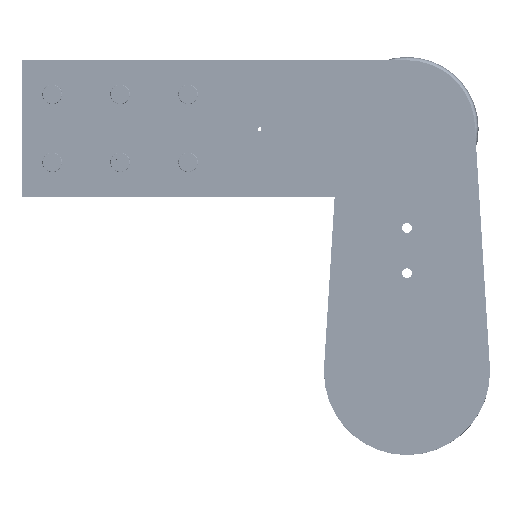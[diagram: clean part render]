
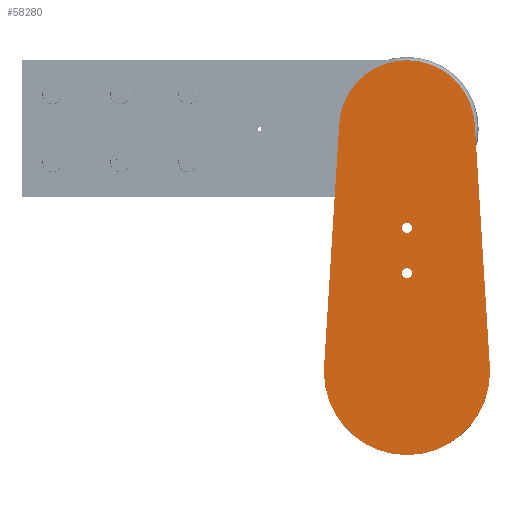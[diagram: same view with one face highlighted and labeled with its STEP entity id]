
A CAD part, top view. The second image highlights one B-rep face of the part: STEP entity #58280.
In plain terms, the highlighted planar face has unit normal (0, 0, 1) as drawn and (0, 0, -1) by its records, which use the part's own axes.
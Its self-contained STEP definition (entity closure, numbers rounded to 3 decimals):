
#5973 = CARTESIAN_POINT ( 'NONE',  ( 3.5, 95.5, 0. ) ) ;
#5979 = CARTESIAN_POINT ( 'NONE',  ( -3.5, 95.5, 0. ) ) ;
#5989 = CARTESIAN_POINT ( 'NONE',  ( -3.5, 65.5, 0. ) ) ;
#5992 = CARTESIAN_POINT ( 'NONE',  ( 3.5, 65.5, 0. ) ) ;
#6113 = CARTESIAN_POINT ( 'NONE',  ( 54.894, 3.406, 0. ) ) ;
#6116 = CARTESIAN_POINT ( 'NONE',  ( 55., 0., 0. ) ) ;
#6140 = CARTESIAN_POINT ( 'NONE',  ( 44.914, 164.286, 0. ) ) ;
#6142 = CARTESIAN_POINT ( 'NONE',  ( -55., 0., 0. ) ) ;
#6144 = CARTESIAN_POINT ( 'NONE',  ( -44.914, 164.286, 0. ) ) ;
#6152 = CARTESIAN_POINT ( 'NONE',  ( -54.894, 3.406, 0. ) ) ;
#21002 = EDGE_CURVE ( 'NONE', #67583, #67586, #26721, .T. ) ;
#21006 = EDGE_CURVE ( 'NONE', #67593, #67596, #26725, .T. ) ;
#21019 = EDGE_CURVE ( 'NONE', #67637, #67640, #26748, .T. ) ;
#21023 = EDGE_CURVE ( 'NONE', #67644, #67637, #26753, .T. ) ;
#26127 = CARTESIAN_POINT ( 'NONE',  ( 0., 95.5, 0. ) ) ;
#26128 = DIRECTION ( 'NONE',  ( 0., 0., -1. ) ) ;
#26129 = DIRECTION ( 'NONE',  ( 1., 0., 0. ) ) ;
#26139 = CARTESIAN_POINT ( 'NONE',  ( 0., 65.5, 0. ) ) ;
#26140 = DIRECTION ( 'NONE',  ( 0., 0., -1. ) ) ;
#26141 = DIRECTION ( 'NONE',  ( 1., 0., 0. ) ) ;
#26177 = CARTESIAN_POINT ( 'NONE',  ( 0., 0., 0. ) ) ;
#26178 = DIRECTION ( 'NONE',  ( 0., 0., 1. ) ) ;
#26179 = DIRECTION ( 'NONE',  ( 1., 0., 0. ) ) ;
#26189 = CARTESIAN_POINT ( 'NONE',  ( 0., 0., 0. ) ) ;
#26190 = DIRECTION ( 'NONE',  ( 0., 0., 1. ) ) ;
#26191 = DIRECTION ( 'NONE',  ( 1., 0., 0. ) ) ;
#26222 = CARTESIAN_POINT ( 'NONE',  ( 0., 161.5, 0. ) ) ;
#26223 = DIRECTION ( 'NONE',  ( 0., 0., 1. ) ) ;
#26224 = DIRECTION ( 'NONE',  ( 1., 0., 0. ) ) ;
#26232 = LINE ( 'NONE', #26233, #26778 ) ;
#26233 = CARTESIAN_POINT ( 'NONE',  ( -44.914, 164.286, 0. ) ) ;
#26234 = DIRECTION ( 'NONE',  ( -0.062, -0.998, 0. ) ) ;
#26240 = LINE ( 'NONE', #26241, #26784 ) ;
#26241 = CARTESIAN_POINT ( 'NONE',  ( 44.914, 164.286, 0. ) ) ;
#26245 = CARTESIAN_POINT ( 'NONE',  ( 0., 0., 0. ) ) ;
#26246 = DIRECTION ( 'NONE',  ( 0., 0., 1. ) ) ;
#26247 = DIRECTION ( 'NONE',  ( 1., 0., 0. ) ) ;
#26248 = DIRECTION ( 'NONE',  ( -0.062, 0.998, 0. ) ) ;
#26254 = CARTESIAN_POINT ( 'NONE',  ( 0., 95.5, 0. ) ) ;
#26255 = DIRECTION ( 'NONE',  ( 0., 0., -1. ) ) ;
#26256 = DIRECTION ( 'NONE',  ( 1., 0., 0. ) ) ;
#26258 = CARTESIAN_POINT ( 'NONE',  ( 0., 65.5, 0. ) ) ;
#26259 = DIRECTION ( 'NONE',  ( 0., 0., -1. ) ) ;
#26260 = DIRECTION ( 'NONE',  ( 1., 0., 0. ) ) ;
#26721 = CIRCLE ( 'NONE', #26726, 3.5 ) ;
#26725 = CIRCLE ( 'NONE', #26732, 3.5 ) ;
#26726 = AXIS2_PLACEMENT_3D ( 'NONE', #26127, #26128, #26129 ) ;
#26732 = AXIS2_PLACEMENT_3D ( 'NONE', #26139, #26140, #26141 ) ;
#26748 = CIRCLE ( 'NONE', #26752, 55. ) ;
#26752 = AXIS2_PLACEMENT_3D ( 'NONE', #26177, #26178, #26179 ) ;
#26753 = CIRCLE ( 'NONE', #26758, 55. ) ;
#26758 = AXIS2_PLACEMENT_3D ( 'NONE', #26189, #26190, #26191 ) ;
#26771 = CIRCLE ( 'NONE', #26774, 45. ) ;
#26774 = AXIS2_PLACEMENT_3D ( 'NONE', #26222, #26223, #26224 ) ;
#26778 = VECTOR ( 'NONE', #26234, 1000. ) ;
#26782 = CIRCLE ( 'NONE', #26785, 55. ) ;
#26784 = VECTOR ( 'NONE', #26248, 1000. ) ;
#26785 = AXIS2_PLACEMENT_3D ( 'NONE', #26245, #26246, #26247 ) ;
#26787 = CIRCLE ( 'NONE', #26789, 3.5 ) ;
#26788 = CIRCLE ( 'NONE', #26791, 3.5 ) ;
#26789 = AXIS2_PLACEMENT_3D ( 'NONE', #26254, #26255, #26256 ) ;
#26791 = AXIS2_PLACEMENT_3D ( 'NONE', #26258, #26259, #26260 ) ;
#28230 = AXIS2_PLACEMENT_3D ( 'NONE', #77683, #77679, #77689 ) ;
#50854 = ORIENTED_EDGE ( 'NONE', *, *, #21002, .F. ) ;
#50855 = ORIENTED_EDGE ( 'NONE', *, *, #57036, .F. ) ;
#50857 = ORIENTED_EDGE ( 'NONE', *, *, #21006, .F. ) ;
#50859 = ORIENTED_EDGE ( 'NONE', *, *, #57039, .F. ) ;
#50861 = ORIENTED_EDGE ( 'NONE', *, *, #57013, .F. ) ;
#50862 = ORIENTED_EDGE ( 'NONE', *, *, #57033, .F. ) ;
#50863 = ORIENTED_EDGE ( 'NONE', *, *, #21019, .F. ) ;
#50865 = ORIENTED_EDGE ( 'NONE', *, *, #21023, .F. ) ;
#50867 = ORIENTED_EDGE ( 'NONE', *, *, #57030, .F. ) ;
#50869 = ORIENTED_EDGE ( 'NONE', *, *, #57021, .F. ) ;
#57013 = EDGE_CURVE ( 'NONE', #67650, #67647, #26771, .T. ) ;
#57021 = EDGE_CURVE ( 'NONE', #67647, #67653, #26232, .T. ) ;
#57030 = EDGE_CURVE ( 'NONE', #67653, #67644, #26782, .T. ) ;
#57033 = EDGE_CURVE ( 'NONE', #67640, #67650, #26240, .T. ) ;
#57036 = EDGE_CURVE ( 'NONE', #67586, #67583, #26787, .T. ) ;
#57039 = EDGE_CURVE ( 'NONE', #67596, #67593, #26788, .T. ) ;
#58280 = ADVANCED_FACE ( 'NONE', ( #77684, #77680, #77686 ), #77687, .F. ) ;
#67061 = EDGE_LOOP ( 'NONE', ( #50854, #50855 ) ) ;
#67074 = EDGE_LOOP ( 'NONE', ( #50861, #50862, #50863, #50865, #50867, #50869 ) ) ;
#67077 = EDGE_LOOP ( 'NONE', ( #50857, #50859 ) ) ;
#67583 = VERTEX_POINT ( 'NONE', #5973 ) ;
#67586 = VERTEX_POINT ( 'NONE', #5979 ) ;
#67593 = VERTEX_POINT ( 'NONE', #5992 ) ;
#67596 = VERTEX_POINT ( 'NONE', #5989 ) ;
#67637 = VERTEX_POINT ( 'NONE', #6116 ) ;
#67640 = VERTEX_POINT ( 'NONE', #6113 ) ;
#67644 = VERTEX_POINT ( 'NONE', #6142 ) ;
#67647 = VERTEX_POINT ( 'NONE', #6144 ) ;
#67650 = VERTEX_POINT ( 'NONE', #6140 ) ;
#67653 = VERTEX_POINT ( 'NONE', #6152 ) ;
#77679 = DIRECTION ( 'NONE',  ( 0., 0., 1. ) ) ;
#77680 = FACE_BOUND ( 'NONE', #67077, .T. ) ;
#77683 = CARTESIAN_POINT ( 'NONE',  ( 0., 161.5, 0. ) ) ;
#77684 = FACE_BOUND ( 'NONE', #67061, .T. ) ;
#77686 = FACE_OUTER_BOUND ( 'NONE', #67074, .T. ) ;
#77687 = PLANE ( 'NONE',  #28230 ) ;
#77689 = DIRECTION ( 'NONE',  ( 1., 0., 0. ) ) ;
